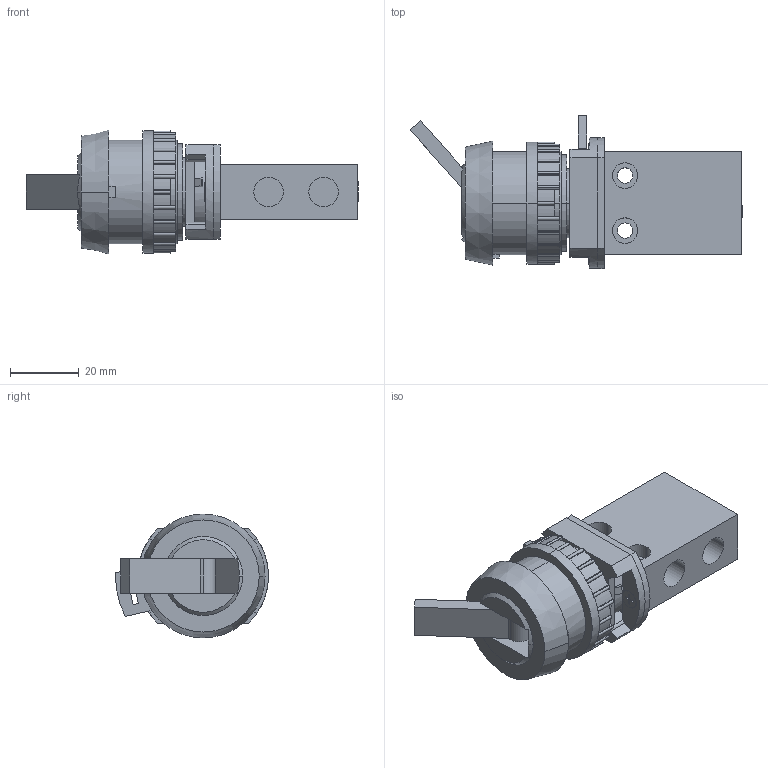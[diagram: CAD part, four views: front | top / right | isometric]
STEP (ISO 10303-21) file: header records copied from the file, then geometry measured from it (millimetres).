
FILE_DESCRIPTION (( 'STEP AP214' ), '1' );
FILE_NAME ('18-T-30-016---T-28-311_Airtec.step', '2018-11-15T13:15:34', ( '' ), ( '' ), 'SwSTEP 2.0', 'SolidWorks 2010', '' );
FILE_SCHEMA (( 'AUTOMOTIVE_DESIGN' ));
Length unit declared in the file: millimetre
Products named in the file (3): 18-T-30-016-Airtec; T-28-311_161115; 18-T-30-016---T-28-311_Airtec
Assembly tree (2 placements, depth 2):
  18-T-30-016---T-28-311_Airtec
    18-T-30-016-Airtec
    T-28-311_161115
Bounding box: 96.5 x 44.48 x 36 mm (x, y, z)
Volume: 49289.8 mm3; surface area: 17857.3 mm2
Topology: 2 solids, 2 shells, 529 faces, 1420 edges, 912 vertices
Faces by surface type: cylinder 221, plane 218, cone 71, torus 19
Entity records: 17232 total; most frequent: CARTESIAN_POINT 3548, DIRECTION 3028, ORIENTED_EDGE 2824, EDGE_CURVE 1412, AXIS2_PLACEMENT_3D 1194, VERTEX_POINT 912, CIRCLE 660, LINE 640
